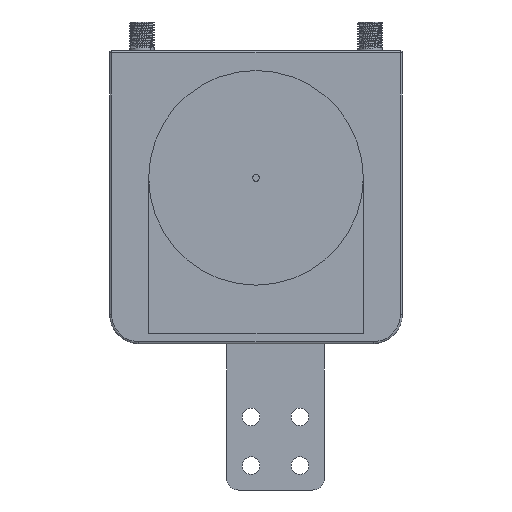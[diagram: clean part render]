
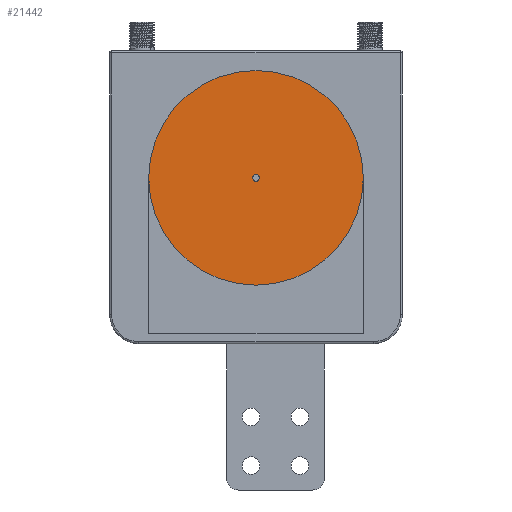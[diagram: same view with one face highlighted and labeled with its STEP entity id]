
A CAD part, front view. The second image highlights one B-rep face of the part: STEP entity #21442.
In plain terms, the highlighted planar face has unit normal (0, -1, 0).
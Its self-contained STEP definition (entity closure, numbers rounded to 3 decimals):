
#705 = CARTESIAN_POINT ( 'NONE',  ( 0., 0., 0. ) ) ;
#1000 = AXIS2_PLACEMENT_3D ( 'NONE', #30044, #5295, #27340 ) ;
#1017 = EDGE_CURVE ( 'NONE', #2325, #12602, #15951, .T. ) ;
#1423 = EDGE_CURVE ( 'NONE', #9270, #12544, #17706, .T. ) ;
#1952 = CARTESIAN_POINT ( 'NONE',  ( 0., 0., 55. ) ) ;
#2325 = VERTEX_POINT ( 'NONE', #10954 ) ;
#2448 = AXIS2_PLACEMENT_3D ( 'NONE', #13779, #6187, #5477 ) ;
#3262 = AXIS2_PLACEMENT_3D ( 'NONE', #705, #3570, #3756 ) ;
#3570 = DIRECTION ( 'NONE',  ( 0., -1., 0. ) ) ;
#3635 = PLANE ( 'NONE',  #3732 ) ;
#3732 = AXIS2_PLACEMENT_3D ( 'NONE', #34163, #22957, #17881 ) ;
#3756 = DIRECTION ( 'NONE',  ( 0., 0., -1. ) ) ;
#3957 = DIRECTION ( 'NONE',  ( 0., 1., 0. ) ) ;
#4104 = EDGE_CURVE ( 'NONE', #12544, #9270, #5433, .T. ) ;
#5295 = DIRECTION ( 'NONE',  ( 0., 1., 0. ) ) ;
#5433 = CIRCLE ( 'NONE', #12377, 55. ) ;
#5477 = DIRECTION ( 'NONE',  ( 0., 0., -1. ) ) ;
#6187 = DIRECTION ( 'NONE',  ( 0., -1., 0. ) ) ;
#6877 = FACE_OUTER_BOUND ( 'NONE', #12800, .T. ) ;
#8091 = CARTESIAN_POINT ( 'NONE',  ( 0., 0., -55. ) ) ;
#9270 = VERTEX_POINT ( 'NONE', #8091 ) ;
#10238 = EDGE_CURVE ( 'NONE', #12602, #2325, #13489, .T. ) ;
#10954 = CARTESIAN_POINT ( 'NONE',  ( 0., 0., 1.75 ) ) ;
#12377 = AXIS2_PLACEMENT_3D ( 'NONE', #25634, #3957, #25283 ) ;
#12544 = VERTEX_POINT ( 'NONE', #1952 ) ;
#12602 = VERTEX_POINT ( 'NONE', #35730 ) ;
#12800 = EDGE_LOOP ( 'NONE', ( #24644, #33348 ) ) ;
#13220 = ORIENTED_EDGE ( 'NONE', *, *, #1017, .F. ) ;
#13489 = CIRCLE ( 'NONE', #2448, 1.75 ) ;
#13779 = CARTESIAN_POINT ( 'NONE',  ( 0., 0., 0. ) ) ;
#15951 = CIRCLE ( 'NONE', #3262, 1.75 ) ;
#17706 = CIRCLE ( 'NONE', #1000, 55. ) ;
#17881 = DIRECTION ( 'NONE',  ( 0., 0., 1. ) ) ;
#21442 = ADVANCED_FACE ( 'NONE', ( #25837, #6877 ), #3635, .F. ) ;
#22957 = DIRECTION ( 'NONE',  ( 0., 1., 0. ) ) ;
#24644 = ORIENTED_EDGE ( 'NONE', *, *, #1423, .F. ) ;
#25283 = DIRECTION ( 'NONE',  ( 0., 0., 1. ) ) ;
#25634 = CARTESIAN_POINT ( 'NONE',  ( 0., 0., 0. ) ) ;
#25837 = FACE_BOUND ( 'NONE', #26809, .T. ) ;
#26809 = EDGE_LOOP ( 'NONE', ( #31870, #13220 ) ) ;
#27340 = DIRECTION ( 'NONE',  ( 0., 0., 1. ) ) ;
#30044 = CARTESIAN_POINT ( 'NONE',  ( 0., 0., 0. ) ) ;
#31870 = ORIENTED_EDGE ( 'NONE', *, *, #10238, .F. ) ;
#33348 = ORIENTED_EDGE ( 'NONE', *, *, #4104, .F. ) ;
#34163 = CARTESIAN_POINT ( 'NONE',  ( 0., 0., 0. ) ) ;
#35730 = CARTESIAN_POINT ( 'NONE',  ( 0., 0., -1.75 ) ) ;
